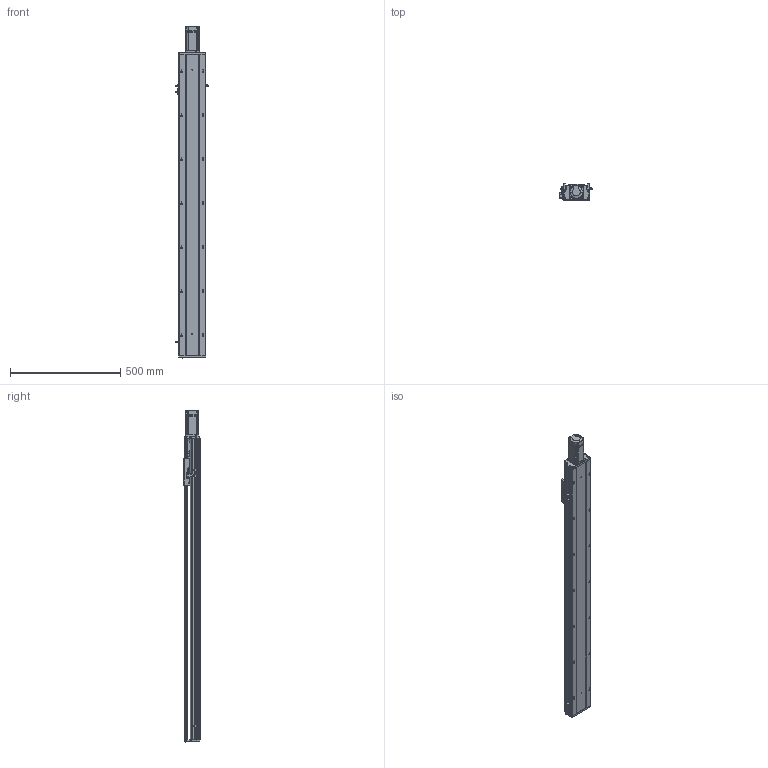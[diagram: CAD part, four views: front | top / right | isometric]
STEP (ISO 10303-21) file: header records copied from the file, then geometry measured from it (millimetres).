
FILE_DESCRIPTION (( 'STEP AP203' ), '1' );
FILE_NAME ('RYK120-L1610-S1100-M40-C3-MK.STEP', '2026-03-09T07:08:24', ( '' ), ( '' ), 'SwSTEP 2.0', 'SolidWorks 2016', '' );
FILE_SCHEMA (( 'CONFIG_CONTROL_DESIGN' ));
Length unit declared in the file: millimetre
Products named in the file (17): 覜茼ん672; RYK170-薊粣ん芵隴裔啣; RYK120-300-MK-奻裔啣-啞_1100; RYK120-300-MK-菁釱-啞_1100; RYK120-L1610-S1100-M40-C3-MK; CB╱T 3762-1996[锥形润滑油嘴1-ZM10×1]_1-ZM10×1; RY120-16螺母油路-集中注油组合; RY120电机端支撑座-压铸加工-M5; RY120外置感应片(140共用）; 15; 侂狟400W侜督萇儂; RY120綴裔啣; 44-49-12-14; 滅袉蝶18-24; 2.10.1.C521-V1.0RY120臏賑輸16蹟譫-啞-JZZY-NRL-L1899; RY120QGB-1.8; 滅袉蝶18-10
Assembly tree (21 placements, depth 3):
  RYK120-L1610-S1100-M40-C3-MK
    RYK120-300-MK-菁釱-啞_1100
    RYK120-300-MK-奻裔啣-啞_1100
    RY120綴裔啣
    滅袉蝶18-24  x2
    滅袉蝶18-10  x2
    覜茼ん672  x3
    RY120外置感应片(140共用）
    RY120QGB-1.8
    RY120-16螺母油路-集中注油组合
      2.10.1.C521-V1.0RY120臏賑輸16蹟譫-啞-JZZY-NRL-L1899
      CB╱T 3762-1996[锥形润滑油嘴1-ZM10×1]_1-ZM10×1  x2
    RY120电机端支撑座-压铸加工-M5
    RYK170-薊粣ん芵隴裔啣
    44-49-12-14
    侂狟400W侜督萇儂
      15
Bounding box: 145.7 x 73 x 1508.5 mm (x, y, z)
Volume: 3921814.6 mm3; surface area: 1400077.6 mm2
Topology: 23 solids, 23 shells, 2642 faces, 7322 edges, 4665 vertices
Faces by surface type: plane 1201, cylinder 1027, cone 287, bspline 127
Entity records: 87674 total; most frequent: CARTESIAN_POINT 25146, ORIENTED_EDGE 13104, DIRECTION 12075, EDGE_CURVE 6552, VERTEX_POINT 4277, AXIS2_PLACEMENT_3D 4158, LINE 3759, VECTOR 3759
